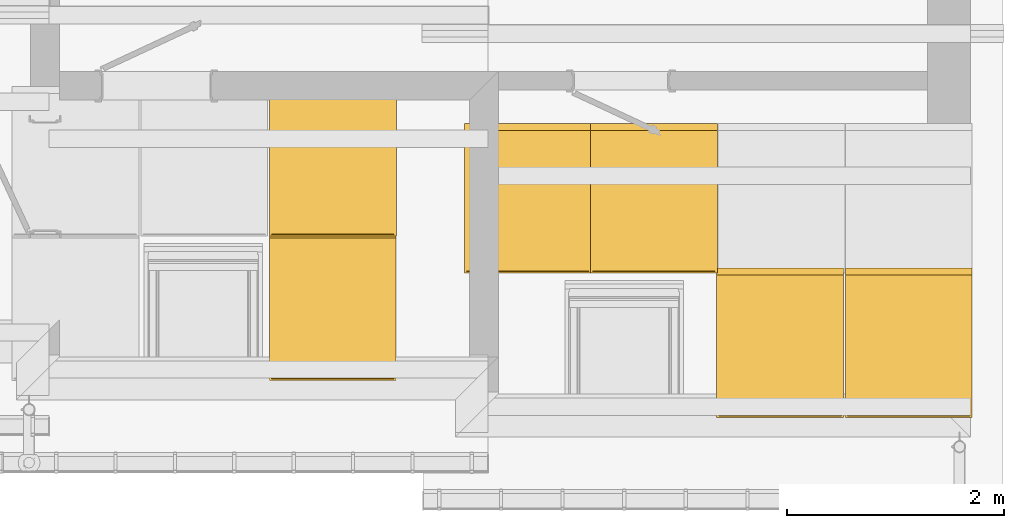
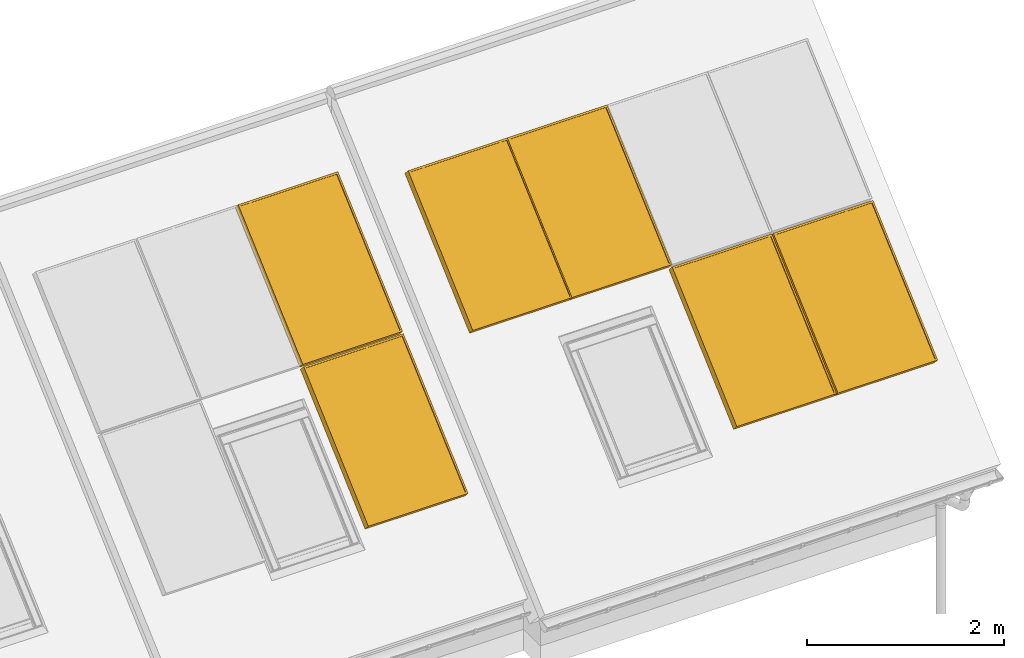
# One storey, part 15 of 43: 6 windows.
"""IFC2X3 building model written with IfcOpenShell, lengths in millimetres."""

from ifc_helpers import new_model, si_unit, frame, origin_with_axes, place, context, project, spatial, faceted_brep, element, save


model = new_model("IFC2X3")

# Units and contexts
model_context = context("Model", 3, world=origin_with_axes())
ifc_project = project(units=[si_unit("LENGTHUNIT", "METRE", prefix="MILLI")], contexts=[model_context])

# Site, building, storey
site_placement = place(None, origin_with_axes())
site = spatial("IfcSite", under=ifc_project, at=site_placement, Name="Site", CompositionType="ELEMENT")
building_placement = place(site_placement, origin_with_axes())
building = spatial("IfcBuilding", under=site, at=building_placement, Name="?", CompositionType="ELEMENT")
storey_placement = place(building_placement, frame((0.0, 0.0, 5938.0), z_axis=(0.0, 0.0, 1.0), x_axis=(1.0, 0.0, 0.0)))
storey = spatial("IfcBuildingStorey", under=building, at=storey_placement, Name="Dachgeschoß", CompositionType="ELEMENT", Elevation=5938.0)

# Windows
placement_1 = place(None, origin_with_axes())
placement_2 = place(placement_1, frame((13550.0, -7440.0, 6767.55029296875), z_axis=(0.0, -0.669130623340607, 0.743144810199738), x_axis=(1.00000000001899, 0.0, 0.0)))
placement_3 = place(placement_2, frame((1264.99999997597, 4260.5996621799, 429.999637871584), z_axis=(0.0, -1.00000000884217, 1.68356351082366e-07), x_axis=(1.00000000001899, 0.0, 0.0)))
window_1_placement = place(placement_3, origin_with_axes())
element("IfcWindow", 1, at=window_1_placement, inside=storey, Name="SO", OverallHeight=1730.0, OverallWidth=1130.0, context=model_context, shape_type="Brep", body=[
    faceted_brep([(1150.0009765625, 50.000556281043, -65.0251551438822), (1130.0, 50.0003351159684, -45.0250977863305), (-2.27373675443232e-13, 50.0003351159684, -45.0250977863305), (-20.0009765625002, 50.000556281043, -65.0251551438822), (1150.0009765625, 150.000551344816, -65.0251189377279), (1150.0009765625, 50.0005540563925, -65.0251570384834), (-20.0009765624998, 50.0005540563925, -65.0251570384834), (-20.0009765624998, 150.000551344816, -65.0251189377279), (1130.0, 150.00033024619, -45.0250619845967), (1150.0009765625, 150.000551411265, -65.0251193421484), (-20.0009765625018, 150.000551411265, -65.0251193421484), (-1.81898940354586e-12, 150.00033024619, -45.0250619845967), (1130.0, 50.0003351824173, -45.025098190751), (1130.0, 150.000332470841, -45.0250600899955), (-1.81898940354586e-12, 150.000332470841, -45.0250600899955), (-1.81898940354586e-12, 50.0003351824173, -45.025098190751), (-20.0009765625, 50.000556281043, -65.0251551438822), (-4.15748218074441e-08, 49.9990246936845, -45.0250982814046), (5.94809534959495e-08, 49.999975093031, 1684.97440829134), (-20.0000001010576, 50.0015285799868, 1704.97497257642), (-20.0009765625, 150.000551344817, -65.0251189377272), (-20.0009765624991, 50.0005562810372, -65.0251551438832), (-20.0000000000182, 50.0028548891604, 1704.97498068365), (-20.0000000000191, 150.002849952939, 1704.97501688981), (1.81899113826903e-12, 150.00033024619, -45.0250619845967), (-20.000976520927, 150.001861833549, -65.0251188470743), (-20.000000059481, 150.002834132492, 1704.97500887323), (1.01059413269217e-07, 150.001280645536, 1684.97444458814), (0.0, 50.0003351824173, -45.025098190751), (0.0, 150.00033024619, -45.0250619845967), (0.0, 149.999985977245, 1684.97445251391), (0.0, 49.9999909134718, 1684.97441630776), (-20.0000000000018, 50.0028548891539, 1704.97498068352), (2.05000461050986e-09, 50.0015061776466, 1684.97441592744), (1130.00000000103, 49.999990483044, 1684.97441602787), (1149.99902344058, 50.0012855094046, 1704.97447316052), (-20.0, 150.002849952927, 1704.97501688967), (-20.0000000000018, 50.0028526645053, 1704.97497878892), (1149.99902343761, 49.9997675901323, 1704.97447136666), (1150.00097656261, 149.999764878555, 1704.97450946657), (1.8189893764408e-12, 149.999985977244, 1684.97445251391), (-20.0000000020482, 150.001334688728, 1704.97501726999), (1150.00097656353, 149.99976530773, 1704.97450974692), (1129.99999999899, 149.998470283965, 1684.97445261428), (1.81898940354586e-12, 49.9999909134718, 1684.97441630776), (1.81898940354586e-12, 149.999988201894, 1684.97445440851), (1130.0, 149.999988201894, 1684.97445440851), (1130.0, 49.9999909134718, 1684.97441630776), (1149.9990234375, 49.9997698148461, 1704.97447326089), (1130.0, 49.9997765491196, 1684.974416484), (1130.0, 50.0003590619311, -45.0250827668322), (1150.0009765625, 50.000365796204, -65.0251395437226), (1150.0009765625, 149.999764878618, 1704.97450946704), (1150.00000000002, 49.9997698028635, 1704.97447326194), (1150.00097656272, 50.0005562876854, -65.0251551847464), (1150.0019531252, 150.000551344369, -65.0251189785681), (1130.0, 149.999985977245, 1684.97445251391), (1150.0009765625, 149.999979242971, 1704.9745092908), (1150.0009765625, 150.000575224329, -65.0251035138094), (1130.0, 150.000568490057, -45.025046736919), (1130.0, 49.9999909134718, 1684.97441630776), (1130.0, 149.999985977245, 1684.97445251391), (1130.0, 150.00033024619, -45.0250619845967), (1130.0, 50.0003351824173, -45.0250981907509), (0.0, 140.000120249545, -45.0250074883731), (-1.18234311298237e-10, 139.999392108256, 1684.97513757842), (1130.00000000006, 139.999754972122, 1684.97448413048), (1129.99999999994, 140.000483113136, -45.0250074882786), (3.63797880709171e-12, 129.9999102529, -45.0249529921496), (1129.99999999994, 130.000273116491, -45.024952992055), (1130.00000000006, 129.999544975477, 1684.9745386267), (-1.10958353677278e-10, 129.999182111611, 1684.97519207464), (3.63797880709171e-12, 129.9999102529, -45.0249529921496), (-1.10958353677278e-10, 129.999182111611, 1684.97519207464), (1130.00000000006, 129.999544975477, 1684.9745386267), (1129.99999999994, 130.000273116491, -45.024952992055)], [[[0, 1, 2, 3]], [[4, 5, 6, 7]], [[8, 9, 10, 11]], [[12, 13, 14, 15]], [[16, 17, 18, 19]], [[20, 21, 22, 23]], [[24, 25, 26, 27]], [[28, 29, 30, 31]], [[32, 33, 34, 35]], [[36, 37, 38, 39]], [[40, 41, 42, 43]], [[44, 45, 46, 47]], [[48, 49, 50, 51]], [[52, 53, 54, 55]], [[56, 57, 58, 59]], [[60, 61, 62, 63]], [[64, 65, 66, 67]], [[68, 69, 70, 71]], [[72, 73, 74, 75]]]),
])
placement_4 = place(placement_2, frame((2429.99999995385, 2467.22755432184, 429.999902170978), z_axis=(0.0, -1.00000004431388, 3.98832931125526e-08), x_axis=(1.00000000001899, 0.0, 0.0)))
window_2_placement = place(placement_4, origin_with_axes())
element("IfcWindow", 2, at=window_2_placement, inside=storey, Name="SO", OverallHeight=1730.0, OverallWidth=1130.0, context=model_context, shape_type="Brep", body=[
    faceted_brep([(1150.0, 50.0001865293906, -65.0182569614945), (1130.0, 49.9999679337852, -45.0182003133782), (-2.27373675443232e-13, 49.9999679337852, -45.0182003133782), (-19.9990234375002, 50.0001865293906, -65.0182569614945), (1150.0, 150.000181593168, -65.0182207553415), (1150.0, 50.0001843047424, -65.0182588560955), (-19.9990234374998, 50.0001843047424, -65.0182588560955), (-19.9990234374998, 150.000181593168, -65.0182207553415), (1130.0, 149.999963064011, -45.0181645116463), (1150.0, 150.000181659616, -65.0182211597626), (-19.9990234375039, 150.000181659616, -65.0182211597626), (-3.86535248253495e-12, 149.999963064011, -45.0181645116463), (1130.0, 49.9999680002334, -45.0182007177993), (1130.0, 149.99996528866, -45.018162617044), (0.0, 149.99996528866, -45.018162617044), (0.0, 49.9999680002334, -45.0182007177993), (-19.9990234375, 50.0001865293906, -65.0182569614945), (-4.15384420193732e-08, 49.9986575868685, -45.0182008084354), (5.94864140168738e-08, 49.9998302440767, 1684.9805548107), (-20.0000001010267, 50.0013863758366, 1704.98111838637), (-19.9990234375, 150.000181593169, -65.0182207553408), (-19.9990234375, 50.0001865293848, -65.0182569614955), (-19.9999999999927, 50.0027486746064, 1704.98112649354), (-19.9999999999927, 150.002743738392, 1704.9811626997), (0.0, 149.999963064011, -45.0181645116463), (-19.9990233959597, 150.001492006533, -65.0182206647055), (-20.0000000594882, 150.002691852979, 1704.98115468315), (1.0102667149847e-07, 150.001135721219, 1684.98059110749), (0.0, 49.9999680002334, -45.0182007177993), (0.0, 149.999963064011, -45.0181645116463), (0.0, 149.999877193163, 1684.98059903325), (0.0, 49.9998821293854, 1684.9805628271), (-20.0, 50.0027486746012, 1704.9811264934), (2.0518235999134e-09, 50.0013973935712, 1684.98056244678), (1130.00000000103, 49.9998816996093, 1684.98056254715), (1150.00000000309, 50.0011792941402, 1704.98061897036), (-19.9999999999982, 150.00274373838, 1704.98116269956), (-19.9999999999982, 50.0027464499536, 1704.9811245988), (1150.00000000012, 49.9996613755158, 1704.98061717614), (1150.00000000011, 149.999658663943, 1704.98065527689), (0.0, 149.999877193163, 1684.98059903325), (-20.0000000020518, 150.001228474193, 1704.98116307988), (1150.00000000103, 149.999659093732, 1704.98065555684), (1129.99999999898, 149.998361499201, 1684.98059913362), (1.81898940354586e-12, 49.9998821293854, 1684.9805628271), (1.81898940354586e-12, 149.999879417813, 1684.98060092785), (1130.0, 149.999879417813, 1684.98060092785), (1130.0, 49.9998821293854, 1684.9805628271), (1150.0, 49.9996636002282, 1704.98061907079), (1130.0, 49.9996677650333, 1684.98056300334), (1130.0, 50.000028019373, -45.0181852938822), (1150.0, 50.0000321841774, -65.0182413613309), (1150.0, 149.999658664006, 1704.98065527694), (1150.0, 49.9996636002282, 1704.98061907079), (1150.0, 50.0001865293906, -65.0182569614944), (1150.0, 150.000181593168, -65.0182207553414), (1130.0, 149.999877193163, 1684.98059903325), (1150.0, 149.999873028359, 1704.9806551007), (1150.0, 150.000241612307, -65.0182053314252), (1130.0, 150.000237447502, -45.0181492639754), (1130.0, 49.9998821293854, 1684.9805628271), (1130.0, 149.999877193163, 1684.98059903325), (1130.0, 149.999963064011, -45.0181645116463), (1130.0, 49.9999680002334, -45.0182007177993), (0.0, 139.999753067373, -45.0181100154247), (0.0, 139.999975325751, 1684.98172126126), (1130.0, 139.999975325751, 1684.98172126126), (1130.0, 139.999753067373, -45.0181100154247), (0.0, 129.999543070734, -45.0180555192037), (1130.0, 129.999543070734, -45.0180555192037), (1130.0, 129.999765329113, 1684.98177575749), (0.0, 129.999765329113, 1684.98177575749), (0.0, 129.999543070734, -45.0180555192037), (0.0, 129.999765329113, 1684.98177575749), (1130.0, 129.999765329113, 1684.98177575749), (1130.0, 129.999543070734, -45.0180555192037)], [[[0, 1, 2, 3]], [[4, 5, 6, 7]], [[8, 9, 10, 11]], [[12, 13, 14, 15]], [[16, 17, 18, 19]], [[20, 21, 22, 23]], [[24, 25, 26, 27]], [[28, 29, 30, 31]], [[32, 33, 34, 35]], [[36, 37, 38, 39]], [[40, 41, 42, 43]], [[44, 45, 46, 47]], [[48, 49, 50, 51]], [[52, 53, 54, 55]], [[56, 57, 58, 59]], [[60, 61, 62, 63]], [[64, 65, 66, 67]], [[68, 69, 70, 71]], [[72, 73, 74, 75]]]),
])
placement_5 = place(placement_2, frame((3616.9999999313, 2467.22755432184, 429.999902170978), z_axis=(0.0, -1.00000004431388, 3.98832931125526e-08), x_axis=(1.00000000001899, 0.0, 0.0)))
window_3_placement = place(placement_5, origin_with_axes())
element("IfcWindow", 3, at=window_3_placement, inside=storey, Name="SO", OverallHeight=1730.0, OverallWidth=1130.0, context=model_context, shape_type="Brep", body=[
    faceted_brep([(1150.0, 50.0001865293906, -65.0182569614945), (1130.0, 49.9999679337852, -45.0182003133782), (0.0, 49.9999679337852, -45.0182003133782), (-20.0, 50.0001865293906, -65.0182569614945), (1150.0, 150.000181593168, -65.0182207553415), (1150.0, 50.0001843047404, -65.018258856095), (-20.0, 50.0001843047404, -65.018258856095), (-20.0, 150.000181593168, -65.0182207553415), (1130.0, 149.999963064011, -45.0181645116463), (1150.0, 150.000181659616, -65.0182211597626), (-20.0000000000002, 150.000181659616, -65.0182211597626), (0.00195312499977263, 149.999963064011, -45.0181645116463), (1130.0, 49.9999680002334, -45.0182007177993), (1130.0, 149.999965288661, -45.018162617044), (0.00195312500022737, 149.999965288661, -45.018162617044), (2.27373675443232e-13, 49.9999680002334, -45.0182007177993), (-19.9999999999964, 50.0001865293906, -65.0182569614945), (-4.15457179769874e-08, 49.9986575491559, -45.0182008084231), (5.94845914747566e-08, 49.999830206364, 1684.98055481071), (-20.000000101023, 50.0013863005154, 1704.98111838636), (-20.0, 150.000181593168, -65.0182207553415), (-20.0, 50.0001865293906, -65.0182569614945), (-20.0, 50.0027486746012, 1704.9811264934), (-20.0, 150.002743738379, 1704.98116269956), (0.00195312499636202, 149.999963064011, -45.0181645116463), (-19.9999999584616, 150.001492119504, -65.0182206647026), (-20.0000000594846, 150.002691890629, 1704.98115468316), (1.01023033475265e-07, 150.00113587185, 1684.98059110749), (6.93889444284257e-20, 49.9999680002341, -45.0182007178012), (0.000976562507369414, 149.999963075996, -45.018164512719), (1.96450855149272e-10, 149.999877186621, 1684.98059907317), (-0.000976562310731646, 49.9998821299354, 1684.98056286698), (-20.0, 50.0027486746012, 1704.9811264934), (2.04818562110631e-09, 50.0013973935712, 1684.98056244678), (1130.00000000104, 49.9998816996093, 1684.98056254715), (1150.00000000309, 50.0011792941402, 1704.98061897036), (-20.0, 150.002743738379, 1704.98116269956), (-19.9999999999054, 50.0027504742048, 1704.98128940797), (1150.00000000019, 49.9996653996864, 1704.98061862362), (1150.00000000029, 150.000021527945, 1704.98049191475), (0.0, 149.999877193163, 1684.98059903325), (-20.0000000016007, 150.001405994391, 1704.98116243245), (1150.00000000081, 150.00002118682, 1704.98032818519), (1129.99999999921, 149.998539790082, 1684.98059913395), (0.0, 49.9998821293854, 1684.9805628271), (0.0, 149.999879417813, 1684.98060092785), (1130.0, 149.999879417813, 1684.98060092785), (1130.0, 49.9998821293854, 1684.9805628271), (1150.0, 49.9996636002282, 1704.98061907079), (1130.0, 49.9996677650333, 1684.98056300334), (1130.0, 50.000028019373, -45.0181852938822), (1150.0, 50.0000321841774, -65.0182413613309), (1150.0, 150.000021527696, 1704.98032855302), (1150.0, 49.9996636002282, 1704.98061907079), (1150.0, 50.0001865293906, -65.0182569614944), (1150.0, 150.000181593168, -65.0182207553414), (1130.0, 149.999877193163, 1684.98059903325), (1150.0000000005, 150.000057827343, 1704.98032855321), (1150.00000000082, 150.000128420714, -65.0182207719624), (1129.99999999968, 149.999946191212, -45.0181645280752), (1130.0, 49.9998821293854, 1684.9805628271), (1130.0, 149.999877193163, 1684.98059903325), (1130.0, 149.999963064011, -45.0181645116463), (1130.0, 49.9999680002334, -45.0182007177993), (0.0, 139.999753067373, -45.0181100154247), (0.0, 140.000266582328, 1684.98209938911), (1130.0, 140.000266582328, 1684.98209938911), (1130.0, 139.999753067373, -45.0181100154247), (0.0, 129.999543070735, -45.0180555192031), (1130.0, 129.999543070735, -45.0180555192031), (1130.0, 130.000056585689, 1684.98215388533), (0.0, 130.000056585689, 1684.98215388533), (0.0, 129.999543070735, -45.0180555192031), (0.0, 130.000056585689, 1684.98215388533), (1130.0, 130.000056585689, 1684.98215388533), (1130.0, 129.999543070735, -45.0180555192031)], [[[0, 1, 2, 3]], [[4, 5, 6, 7]], [[8, 9, 10, 11]], [[12, 13, 14, 15]], [[16, 17, 18, 19]], [[20, 21, 22, 23]], [[24, 25, 26, 27]], [[28, 29, 30, 31]], [[32, 33, 34, 35]], [[36, 37, 38, 39]], [[40, 41, 42, 43]], [[44, 45, 46, 47]], [[48, 49, 50, 51]], [[52, 53, 54, 55]], [[56, 57, 58, 59]], [[60, 61, 62, 63]], [[64, 65, 66, 67]], [[68, 69, 70, 71]], [[72, 73, 74, 75]]]),
])
placement_6 = place(placement_2, frame((100.999999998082, 4260.5996621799, 429.999637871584), z_axis=(0.0, -1.00000000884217, 1.68356351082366e-07), x_axis=(1.00000000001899, 0.0, 0.0)))
window_4_placement = place(placement_6, origin_with_axes())
element("IfcWindow", 4, at=window_4_placement, inside=storey, Name="SO", OverallHeight=1730.0, OverallWidth=1130.0, context=model_context, shape_type="Brep", body=[
    faceted_brep([(1150.0, 50.000556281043, -65.0251551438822), (1130.0, 50.0003351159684, -45.0250977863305), (-2.04636307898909e-12, 50.0003351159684, -45.0250977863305), (-20.000976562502, 50.000556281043, -65.0251551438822), (1150.0, 150.000551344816, -65.0251189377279), (1150.0, 50.000554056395, -65.0251570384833), (-20.0009765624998, 50.000554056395, -65.0251570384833), (-20.0009765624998, 150.000551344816, -65.0251189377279), (1130.0, 150.00033024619, -45.0250619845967), (1150.0, 150.000551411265, -65.0251193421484), (-20.0009765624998, 150.000551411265, -65.0251193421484), (2.27373675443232e-13, 150.00033024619, -45.0250619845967), (1130.0, 50.0003351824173, -45.025098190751), (1130.0, 150.000332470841, -45.0250600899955), (-1.81898940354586e-12, 150.000332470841, -45.0250600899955), (-1.81898940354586e-12, 50.0003351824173, -45.025098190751), (-20.0009765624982, 50.000556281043, -65.0251551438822), (-4.15730028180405e-08, 49.9990246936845, -45.0250982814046), (5.94827724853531e-08, 49.999975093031, 1684.97440829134), (-20.0000001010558, 50.0015285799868, 1704.97497257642), (-20.0009765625, 150.000551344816, -65.0251189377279), (-20.0009765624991, 50.0005562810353, -65.0251551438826), (-20.0000000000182, 50.002854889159, 1704.97498068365), (-20.0000000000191, 150.002849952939, 1704.97501688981), (1.73472316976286e-18, 150.00033024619, -45.0250619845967), (-20.0009765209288, 150.001861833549, -65.0251188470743), (-20.0000000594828, 150.002834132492, 1704.97500887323), (1.01057594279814e-07, 150.001280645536, 1684.97444458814), (0.0, 50.0003351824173, -45.025098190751), (0.0, 150.00033024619, -45.0250619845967), (0.0, 149.999985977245, 1684.97445251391), (0.0, 49.9999909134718, 1684.97441630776), (-20.0, 50.0028548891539, 1704.97498068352), (2.05182004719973e-09, 50.0015061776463, 1684.97441592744), (1130.00000000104, 49.999990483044, 1684.97441602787), (1149.99902344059, 50.0012855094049, 1704.97447316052), (-20.0, 150.002849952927, 1704.97501688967), (-20.0000000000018, 50.0028526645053, 1704.97497878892), (1149.99902343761, 49.9997675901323, 1704.97447136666), (1150.00097656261, 149.999764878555, 1704.97450946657), (-1.81898943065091e-12, 149.999985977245, 1684.97445251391), (-20.0000000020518, 150.001334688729, 1704.97501726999), (1150.00097656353, 149.99976530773, 1704.97450974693), (1129.99999999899, 149.998470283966, 1684.97445261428), (1.81898940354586e-12, 49.9999909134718, 1684.97441630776), (1.81898940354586e-12, 149.999988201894, 1684.97445440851), (1130.0, 149.999988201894, 1684.97445440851), (1130.0, 49.9999909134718, 1684.97441630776), (1149.9990234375, 49.9997698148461, 1704.97447326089), (1130.0, 49.9997765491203, 1684.974416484), (1130.0, 50.0003590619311, -45.0250827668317), (1150.0, 50.0003657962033, -65.0251395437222), (1150.0009765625, 149.999764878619, 1704.97450946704), (1150.0, 49.9997698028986, 1704.97447326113), (1149.99999999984, 50.000556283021, -65.025155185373), (1150.00097656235, 150.000551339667, -65.0251189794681), (1130.0, 149.999985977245, 1684.97445251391), (1150.0009765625, 149.999979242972, 1704.9745092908), (1150.0, 150.00057522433, -65.0251035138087), (1130.0, 150.000568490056, -45.025046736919), (1130.0, 49.9999909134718, 1684.97441630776), (1130.0, 149.999985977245, 1684.97445251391), (1130.0, 150.00033024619, -45.0250619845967), (1130.0, 50.0003351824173, -45.0250981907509), (1.81898940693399e-12, 140.000120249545, -45.0250074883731), (-2.36468622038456e-11, 139.999974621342, 1684.9745146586), (1130.00000000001, 140.000137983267, 1684.97487752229), (1129.99999999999, 140.0002836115, -45.025007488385), (3.63797880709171e-12, 129.999910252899, -45.0249529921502), (1129.99999999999, 130.000073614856, -45.0249529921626), (1130.00000000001, 129.999927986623, 1684.97493201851), (-2.00088833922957e-11, 129.999764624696, 1684.97456915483), (3.63797880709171e-12, 129.999910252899, -45.0249529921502), (-2.18278727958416e-11, 129.999764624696, 1684.97456915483), (1130.00000000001, 129.999927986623, 1684.97493201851), (1129.99999999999, 130.000073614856, -45.0249529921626)], [[[0, 1, 2, 3]], [[4, 5, 6, 7]], [[8, 9, 10, 11]], [[12, 13, 14, 15]], [[16, 17, 18, 19]], [[20, 21, 22, 23]], [[24, 25, 26, 27]], [[28, 29, 30, 31]], [[32, 33, 34, 35]], [[36, 37, 38, 39]], [[40, 41, 42, 43]], [[44, 45, 46, 47]], [[48, 49, 50, 51]], [[52, 53, 54, 55]], [[56, 57, 58, 59]], [[60, 61, 62, 63]], [[64, 65, 66, 67]], [[68, 69, 70, 71]], [[72, 73, 74, 75]]]),
])
placement_7 = place(None, origin_with_axes())
placement_8 = place(placement_7, frame((9500.0, -7098.0, 6767.55029296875), z_axis=(0.0, -0.669130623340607, 0.743144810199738), x_axis=(1.00000000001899, 0.0, 0.0)))
placement_9 = place(placement_8, frame((2353.99999995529, 4260.5996621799, 429.999637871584), z_axis=(0.0, -1.00000000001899, 0.0), x_axis=(1.00000000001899, 0.0, 0.0)))
window_5_placement = place(placement_9, origin_with_axes())
element("IfcWindow", 5, at=window_5_placement, inside=storey, Name="SO", OverallHeight=1730.0, OverallWidth=1130.0, context=model_context, shape_type="Brep", body=[
    faceted_brep([(1150.0009765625, 50.0005453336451, -65.0251557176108), (1130.0, 50.0003275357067, -45.0250981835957), (0.0, 50.0003275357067, -45.0250981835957), (-20.0009765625, 50.0005453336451, -65.0251557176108), (1150.0, 150.000540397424, -65.0251195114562), (1150.0009765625, 50.0005431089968, -65.0251576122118), (-20.0009765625, 50.0005431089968, -65.0251576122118), (-20.0009765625, 150.000540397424, -65.0251195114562), (1130.0, 150.000322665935, -45.0250623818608), (1150.0, 150.000540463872, -65.0251199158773), (-20.0009765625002, 150.000540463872, -65.0251199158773), (-2.27373675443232e-13, 150.000322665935, -45.0250623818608), (1130.0, 50.000327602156, -45.0250985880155), (1130.0, 150.000324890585, -45.0250604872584), (1.81898940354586e-12, 150.000324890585, -45.0250604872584), (1.81898940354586e-12, 50.000327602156, -45.0250985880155), (-20.0009765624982, 50.0005453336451, -65.0251557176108), (-5.54391590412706e-08, 49.9988192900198, -45.0250985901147), (7.58664064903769e-08, 50.0002065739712, 1684.97443087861), (-20.0000001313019, 50.0019646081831, 1704.97397911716), (-20.0009765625, 150.000540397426, -65.0251195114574), (-20.0009765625, 50.0005453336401, -65.0251557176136), (-19.9999999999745, 50.0035409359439, 1704.9739794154), (-19.9999999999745, 150.003535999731, 1704.97401562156), (-1.73472346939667e-18, 150.000322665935, -45.0250623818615), (-20.0009765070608, 150.00204870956, -65.0251195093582), (-20.0000000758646, 150.003467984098, 1704.97401532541), (1.31305569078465e-07, 150.001709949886, 1684.97446708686), (0.0, 50.000327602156, -45.0250985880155), (0.0, 150.000322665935, -45.0250623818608), (0.0, 150.000269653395, 1684.97446738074), (0.0, 50.0002745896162, 1684.97443117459), (-20.0, 50.0035409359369, 1704.97397941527), (2.6138877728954e-09, 50.0019862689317, 1684.97443044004), (1130.00000000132, 50.000274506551, 1684.97443057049), (1149.99902344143, 50.0017686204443, 1704.97448817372), (-20.0, 150.003535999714, 1704.97401562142), (-19.9999999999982, 50.0035387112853, 1704.97397752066), (1149.99902343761, 50.0000546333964, 1704.97448640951), (1149.99902343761, 150.000051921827, 1704.97452451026), (-1.81898934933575e-12, 150.000269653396, 1684.97446738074), (-20.0000000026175, 150.0018243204, 1704.97401635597), (1149.99902343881, 150.000052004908, 1704.97452511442), (1129.9999999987, 149.998557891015, 1684.97446751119), (0.0, 50.0002745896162, 1684.97443117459), (0.0, 150.000271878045, 1684.97446927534), (1130.0, 150.000271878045, 1684.97446927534), (1130.0, 50.0002745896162, 1684.97443117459), (1149.9990234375, 50.0000568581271, 1704.97448830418), (1130.0, 50.000060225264, 1684.97443135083), (1130.0, 50.0003514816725, -45.0250831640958), (1150.0009765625, 50.0003548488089, -65.0251401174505), (1149.9990234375, 150.000051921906, 1704.97452451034), (1149.99951171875, 50.0000568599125, 1704.97448830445), (1150.00097656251, 50.0005453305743, -65.0251557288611), (1150.00048828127, 150.000540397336, -65.025119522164), (1130.0, 150.000269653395, 1684.97446738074), (1149.9990234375, 150.000266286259, 1704.97452433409), (1150.0, 150.000564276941, -65.0251040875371), (1130.0, 150.000560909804, -45.0250471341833), (1130.0, 50.0002745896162, 1684.97443117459), (1130.0, 150.000269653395, 1684.97446738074), (1130.0, 150.000322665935, -45.0250623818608), (1130.0, 50.000327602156, -45.0250985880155), (-1.81898940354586e-12, 140.000112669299, -45.0250078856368), (-1.18234311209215e-10, 139.999675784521, 1684.97515244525), (1130.00000000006, 140.000038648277, 1684.97449899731), (1129.99999999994, 140.00047553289, -45.0250078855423), (1.81898940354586e-12, 129.999902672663, -45.0249533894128), (1129.99999999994, 130.000265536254, -45.0249533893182), (1130.00000000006, 129.999828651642, 1684.97455349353), (-1.14596332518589e-10, 129.999465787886, 1684.97520694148), (1.81898940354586e-12, 129.999902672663, -45.0249533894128), (-1.14596332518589e-10, 129.999465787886, 1684.97520694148), (1130.00000000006, 129.999828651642, 1684.97455349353), (1129.99999999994, 130.000265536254, -45.0249533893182)], [[[0, 1, 2, 3]], [[4, 5, 6, 7]], [[8, 9, 10, 11]], [[12, 13, 14, 15]], [[16, 17, 18, 19]], [[20, 21, 22, 23]], [[24, 25, 26, 27]], [[28, 29, 30, 31]], [[32, 33, 34, 35]], [[36, 37, 38, 39]], [[40, 41, 42, 43]], [[44, 45, 46, 47]], [[48, 49, 50, 51]], [[52, 53, 54, 55]], [[56, 57, 58, 59]], [[60, 61, 62, 63]], [[64, 65, 66, 67]], [[68, 69, 70, 71]], [[72, 73, 74, 75]]]),
])
placement_10 = place(placement_8, frame((2352.99999995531, 2467.22791718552, 429.99957544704), z_axis=(0.0, -1.00000000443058, 8.4178175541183e-08), x_axis=(1.00000000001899, 0.0, 0.0)))
window_6_placement = place(placement_10, origin_with_axes())
element("IfcWindow", 6, at=window_6_placement, inside=storey, Name="SO", OverallHeight=1730.0, OverallWidth=1130.0, context=model_context, shape_type="Brep", body=[
    faceted_brep([(1150.0, 50.0005161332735, -65.0178966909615), (1130.0, 50.0002966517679, -45.0178392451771), (-1.59161572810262e-12, 50.0002966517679, -45.0178392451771), (-20.0009765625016, 50.0005161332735, -65.0178966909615), (1150.0, 150.00051119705, -65.017860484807), (1150.0, 50.0005139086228, -65.0178985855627), (-20.0009765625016, 50.0005139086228, -65.0178985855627), (-20.0009765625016, 150.00051119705, -65.017860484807), (1130.0, 150.000291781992, -45.0178034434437), (1150.0, 150.000511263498, -65.0178608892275), (-20.0009765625, 150.000511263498, -65.0178608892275), (0.0, 150.000291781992, -45.0178034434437), (1130.0, 50.0002967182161, -45.0178396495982), (1130.0, 150.000294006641, -45.0178015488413), (3.86535248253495e-12, 150.000294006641, -45.0178015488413), (3.86535248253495e-12, 50.0002967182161, -45.0178396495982), (-20.0009765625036, 50.0005161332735, -65.0178966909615), (-4.18622185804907e-08, 49.9989828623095, -45.017839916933), (5.94827760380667e-08, 49.9997876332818, 1684.98129616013), (-20.0000001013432, 50.0013394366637, 1704.98186035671), (-20.0009765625, 150.000511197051, -65.0178604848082), (-20.0009765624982, 50.0005161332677, -65.0178966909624), (-20.0000000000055, 50.0026370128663, 1704.98188408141), (-20.0000000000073, 150.002632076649, 1704.98192028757), (-1.81898940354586e-12, 150.000291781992, -45.0178034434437), (-20.0009765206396, 150.001825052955, -65.0178602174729), (-20.0000000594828, 150.002648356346, 1704.9818968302), (1.01346813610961e-07, 150.001096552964, 1684.98133263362), (0.0, 50.0002967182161, -45.0178396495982), (0.0, 150.000291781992, -45.0178034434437), (0.0, 149.999766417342, 1684.98135582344), (0.0, 49.9997713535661, 1684.98131961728), (-20.0000000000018, 50.0026370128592, 1704.98188408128), (2.04818562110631e-09, 50.001286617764, 1684.98131923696), (1130.00000000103, 49.9997709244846, 1684.98131933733), (1150.00097656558, 50.0010676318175, 1704.98137655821), (-20.0000000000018, 150.002632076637, 1704.98192028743), (-20.0000000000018, 50.002634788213, 1704.98188218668), (1150.00097656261, 49.9995497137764, 1704.98137476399), (1150.00097656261, 149.999547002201, 1704.98141286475), (1.81898940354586e-12, 149.999766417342, 1684.98135582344), (-20.00000000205, 150.001116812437, 1704.98192066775), (1150.00097656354, 149.999547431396, 1704.98141314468), (1129.99999999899, 149.998250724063, 1684.9813559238), (0.0, 49.9997713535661, 1684.98131961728), (0.0, 149.999768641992, 1684.98135771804), (1130.0, 149.999768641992, 1684.98135771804), (1130.0, 49.9997713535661, 1684.98131961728), (1150.0009765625, 49.9995519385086, 1704.98137665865), (1130.0, 49.9995603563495, 1684.98131996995), (1130.0, 50.000288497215, -45.0178087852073), (1150.0, 50.0002969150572, -65.0178654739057), (1150.0009765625, 149.999547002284, 1704.9814128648), (1150.0009765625, 49.9995519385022, 1704.98137665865), (1150.0, 50.0005161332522, -65.0178966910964), (1150.0, 150.000511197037, -65.0178604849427), (1130.0, 149.999766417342, 1684.98135582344), (1150.0009765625, 149.9997579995, 1704.98141251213), (1150.0, 150.000502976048, -65.017829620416), (1130.0, 150.000494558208, -45.017772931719), (1130.0, 49.9997713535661, 1684.98131961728), (1130.0, 149.999766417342, 1684.98135582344), (1130.0, 150.000291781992, -45.0178034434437), (1130.0, 50.0002967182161, -45.0178396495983), (0.0, 140.000081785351, -45.0177489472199), (0.0, 139.999499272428, 1684.9820770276), (1130.0, 139.999499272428, 1684.9820770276), (1130.0, 140.000081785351, -45.0177489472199), (-1.81898940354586e-12, 129.999871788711, -45.0176944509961), (1130.0, 129.999871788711, -45.0176944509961), (1130.0, 129.999289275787, 1684.98213152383), (-1.81898940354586e-12, 129.999289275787, 1684.98213152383), (-1.81898940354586e-12, 129.999871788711, -45.0176944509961), (-1.81898940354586e-12, 129.999289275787, 1684.98213152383), (1130.0, 129.999289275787, 1684.98213152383), (1130.0, 129.999871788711, -45.0176944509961)], [[[0, 1, 2, 3]], [[4, 5, 6, 7]], [[8, 9, 10, 11]], [[12, 13, 14, 15]], [[16, 17, 18, 19]], [[20, 21, 22, 23]], [[24, 25, 26, 27]], [[28, 29, 30, 31]], [[32, 33, 34, 35]], [[36, 37, 38, 39]], [[40, 41, 42, 43]], [[44, 45, 46, 47]], [[48, 49, 50, 51]], [[52, 53, 54, 55]], [[56, 57, 58, 59]], [[60, 61, 62, 63]], [[64, 65, 66, 67]], [[68, 69, 70, 71]], [[72, 73, 74, 75]]]),
])

save(model, "model.ifc")
